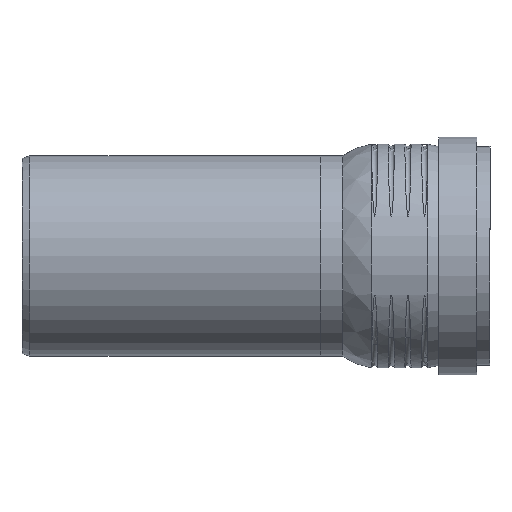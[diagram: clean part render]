
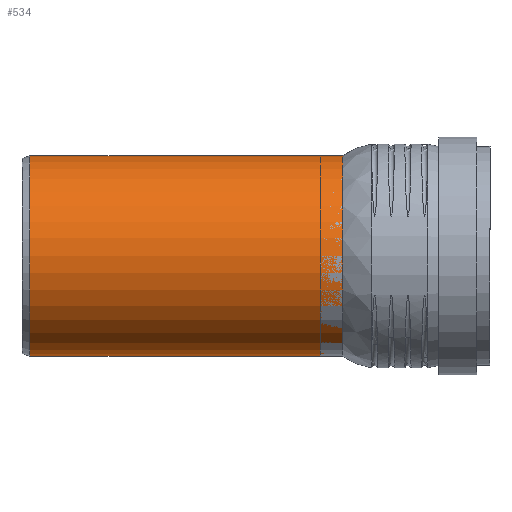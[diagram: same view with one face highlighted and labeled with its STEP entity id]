
A CAD part, top view. The second image highlights one B-rep face of the part: STEP entity #534.
In plain terms, the highlighted cylindrical face has radius 45.1 mm (diameter 90.2 mm), a full revolution.
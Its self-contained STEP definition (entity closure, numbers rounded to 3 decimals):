
#66=CYLINDRICAL_SURFACE('',#580,45.1);
#87=FACE_BOUND('',#158,.T.);
#122=FACE_OUTER_BOUND('',#157,.T.);
#157=EDGE_LOOP('',(#370));
#158=EDGE_LOOP('',(#371));
#222=CIRCLE('',#576,45.1);
#225=CIRCLE('',#581,45.1);
#249=VERTEX_POINT('',#771);
#252=VERTEX_POINT('',#779);
#304=EDGE_CURVE('',#249,#249,#222,.T.);
#307=EDGE_CURVE('',#252,#252,#225,.T.);
#370=ORIENTED_EDGE('',*,*,#307,.F.);
#371=ORIENTED_EDGE('',*,*,#304,.F.);
#534=ADVANCED_FACE('',(#122,#87),#66,.T.);
#576=AXIS2_PLACEMENT_3D('',#772,#643,#644);
#580=AXIS2_PLACEMENT_3D('',#778,#651,#652);
#581=AXIS2_PLACEMENT_3D('',#780,#653,#654);
#643=DIRECTION('center_axis',(-1.,0.,0.));
#644=DIRECTION('ref_axis',(0.,1.,0.));
#651=DIRECTION('center_axis',(1.,0.,0.));
#652=DIRECTION('ref_axis',(0.,1.,0.));
#653=DIRECTION('center_axis',(1.,0.,0.));
#654=DIRECTION('ref_axis',(0.,1.,0.));
#771=CARTESIAN_POINT('',(-69.7,-45.1,0.));
#772=CARTESIAN_POINT('Origin',(-69.7,0.,0.));
#778=CARTESIAN_POINT('Origin',(0.,0.,
0.));
#779=CARTESIAN_POINT('',(73.2,-45.1,0.));
#780=CARTESIAN_POINT('Origin',(73.2,0.,0.));
